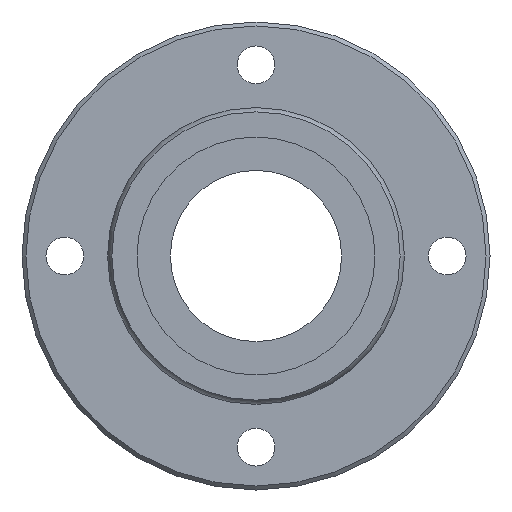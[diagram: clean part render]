
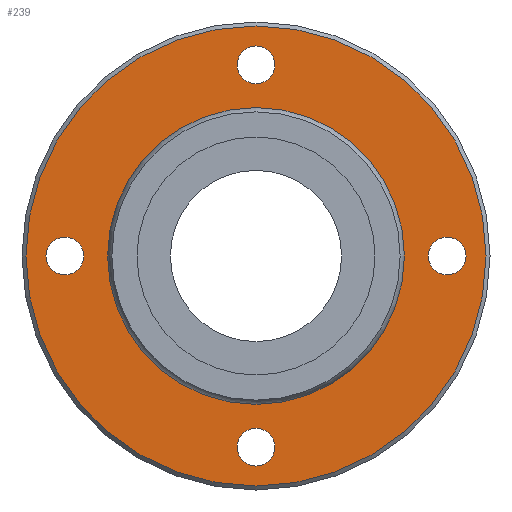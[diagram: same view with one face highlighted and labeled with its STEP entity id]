
A CAD part, left-side view. The second image highlights one B-rep face of the part: STEP entity #239.
In plain terms, the highlighted planar face has unit normal (-1, 0, 0).
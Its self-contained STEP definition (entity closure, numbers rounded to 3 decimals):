
#164=CARTESIAN_POINT('',(61.,0.,40.3));
#165=VERTEX_POINT('',#164);
#166=CARTESIAN_POINT('',(61.,0.0,0.0));
#167=DIRECTION('',(1.0,0.0,0.0));
#168=DIRECTION('',(0.0,0.0,-1.0));
#169=AXIS2_PLACEMENT_3D('',#166,#167,#168);
#170=CIRCLE('',#169,40.3);
#171=EDGE_CURVE('',#165,#165,#170,.T.);
#176=CARTESIAN_POINT('',(61.,0.0,33.357));
#177=DIRECTION('',(-1.0,0.0,0.0));
#178=DIRECTION('',(0.0,0.0,1.0));
#179=AXIS2_PLACEMENT_3D('',#176,#177,#178);
#180=PLANE('',#179);
#181=ORIENTED_EDGE('',*,*,#171,.F.);
#182=EDGE_LOOP('',(#181));
#183=FACE_OUTER_BOUND('',#182,.T.);
#184=CARTESIAN_POINT('',(61.,0.0,25.714));
#185=VERTEX_POINT('',#184);
#186=CARTESIAN_POINT('',(61.,0.0,0.0));
#187=DIRECTION('',(-1.0,0.0,0.0));
#188=DIRECTION('',(0.0,0.0,1.0));
#189=AXIS2_PLACEMENT_3D('',#186,#187,#188);
#190=CIRCLE('',#189,25.714);
#191=EDGE_CURVE('',#185,#185,#190,.T.);
#192=ORIENTED_EDGE('',*,*,#191,.F.);
#193=EDGE_LOOP('',(#192));
#194=FACE_BOUND('',#193,.T.);
#195=CARTESIAN_POINT('',(61.,-36.8,0.));
#196=VERTEX_POINT('',#195);
#197=CARTESIAN_POINT('',(61.,-33.5,0.));
#198=DIRECTION('',(1.0,0.0,0.0));
#199=DIRECTION('',(0.0,1.0,0.0));
#200=AXIS2_PLACEMENT_3D('',#197,#198,#199);
#201=CIRCLE('',#200,3.3);
#202=EDGE_CURVE('',#196,#196,#201,.T.);
#203=ORIENTED_EDGE('',*,*,#202,.T.);
#204=EDGE_LOOP('',(#203));
#205=FACE_BOUND('',#204,.T.);
#206=CARTESIAN_POINT('',(61.,30.2,0.));
#207=VERTEX_POINT('',#206);
#208=CARTESIAN_POINT('',(61.,33.5,0.));
#209=DIRECTION('',(1.0,0.0,0.0));
#210=DIRECTION('',(0.0,1.0,0.0));
#211=AXIS2_PLACEMENT_3D('',#208,#209,#210);
#212=CIRCLE('',#211,3.3);
#213=EDGE_CURVE('',#207,#207,#212,.T.);
#214=ORIENTED_EDGE('',*,*,#213,.T.);
#215=EDGE_LOOP('',(#214));
#216=FACE_BOUND('',#215,.T.);
#217=CARTESIAN_POINT('',(61.,-3.3,33.5));
#218=VERTEX_POINT('',#217);
#219=CARTESIAN_POINT('',(61.,0.,33.5));
#220=DIRECTION('',(1.0,0.0,0.0));
#221=DIRECTION('',(0.0,1.0,0.0));
#222=AXIS2_PLACEMENT_3D('',#219,#220,#221);
#223=CIRCLE('',#222,3.3);
#224=EDGE_CURVE('',#218,#218,#223,.T.);
#225=ORIENTED_EDGE('',*,*,#224,.T.);
#226=EDGE_LOOP('',(#225));
#227=FACE_BOUND('',#226,.T.);
#228=CARTESIAN_POINT('',(61.,-3.3,-33.5));
#229=VERTEX_POINT('',#228);
#230=CARTESIAN_POINT('',(61.,0.,-33.5));
#231=DIRECTION('',(1.0,0.0,0.0));
#232=DIRECTION('',(0.0,1.0,0.0));
#233=AXIS2_PLACEMENT_3D('',#230,#231,#232);
#234=CIRCLE('',#233,3.3);
#235=EDGE_CURVE('',#229,#229,#234,.T.);
#236=ORIENTED_EDGE('',*,*,#235,.T.);
#237=EDGE_LOOP('',(#236));
#238=FACE_BOUND('',#237,.T.);
#239=ADVANCED_FACE('',(#183,#194,#205,#216,#227,#238),#180,.T.);
